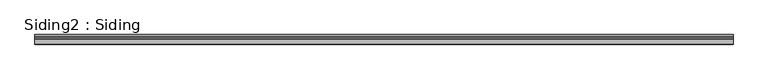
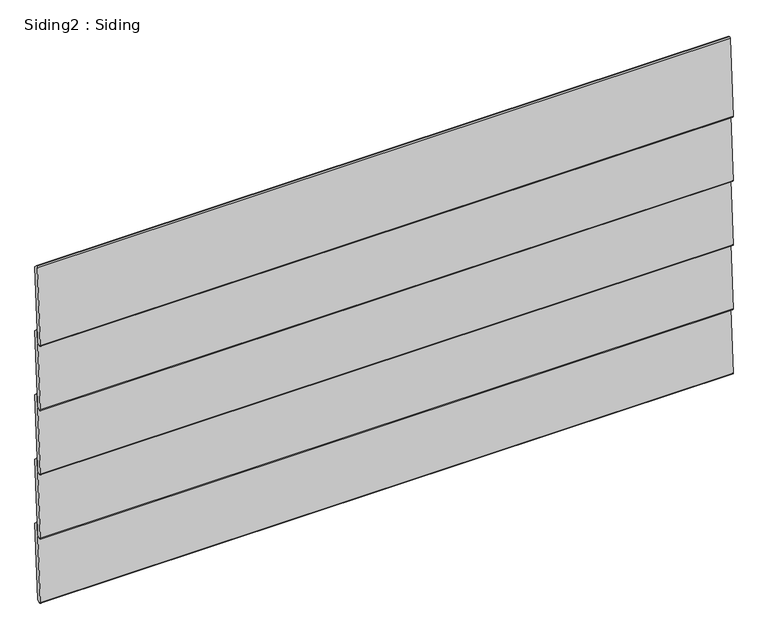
"""IFC4 building model written with IfcOpenShell, lengths in millimetres: proxy geometry, Siding2 : Siding."""

from ifc_helpers import new_model, si_unit, point, frame, frame_2d, origin, place, context, project, spatial, polyline, circle_curve, trimmed, segment, composite_curve, outline, extrude, source, transform, mapped, element, save


def siding2_siding_21e39ed7(model_context):
    return source(origin(), model_context, "Body", "SweptSolid", [
        extrude(outline(composite_curve([segment(trimmed(circle_curve(frame_2d((33663.6718498, 613.6895863)), 2.1075694), [point((33661.5781282, 613.9307891))], [point((33663.7040621, 615.7969095))], False, "CARTESIAN"), True, "CONTINUOUS"), segment(polyline([(33663.7040621, 615.7969095), (33665.7000892, 615.6670028), (33669.43233, 611.4151351), (33660.3182392, 471.3764062), (33656.0663715, 467.6441654), (33654.0703444, 467.7740721)]), True, "CONTINUOUS"), segment(trimmed(circle_curve(frame_2d((33654.3140531, 469.8699934)), 2.1100426), [point((33654.0703444, 467.7740721))], [point((33652.204224, 469.900006))], False, "CARTESIAN"), True, "CONTINUOUS"), segment(polyline([(33652.204224, 469.900006), (33661.5781282, 613.9307891)]), True, "CONTINUOUS")], self_intersect=False)), frame((2214.7820282, 0.0, 0.0), z_axis=(1.0, 0.0, 0.0), x_axis=(0.0, 1.0, 0.0)), (0.0, 0.0, 1.0), 1257.3),
        extrude(outline(composite_curve([segment(trimmed(circle_curve(frame_2d((33663.6718498, 490.4934983)), 2.1075694), [point((33661.5781282, 490.7347011))], [point((33663.7040621, 492.6008215))], False, "CARTESIAN"), True, "CONTINUOUS"), segment(polyline([(33663.7040621, 492.6008215), (33665.7000892, 492.4709148), (33669.43233, 488.2190471), (33660.3182392, 348.1803182), (33656.0663715, 344.4480774), (33654.0703444, 344.5779842)]), True, "CONTINUOUS"), segment(trimmed(circle_curve(frame_2d((33654.3140531, 346.6739054)), 2.1100426), [point((33654.0703444, 344.5779842))], [point((33652.204224, 346.703918))], False, "CARTESIAN"), True, "CONTINUOUS"), segment(polyline([(33652.204224, 346.703918), (33661.5781282, 490.7347011)]), True, "CONTINUOUS")], self_intersect=False)), frame((2214.7820282, 0.0, 0.0), z_axis=(1.0, 0.0, 0.0), x_axis=(0.0, 1.0, 0.0)), (0.0, 0.0, 1.0), 1257.3),
        extrude(outline(composite_curve([segment(trimmed(circle_curve(frame_2d((33663.6718498, 367.2974103)), 2.1075694), [point((33661.5781282, 367.5386131))], [point((33663.7040621, 369.4047335))], False, "CARTESIAN"), True, "CONTINUOUS"), segment(polyline([(33663.7040621, 369.4047335), (33665.7000892, 369.2748268), (33669.43233, 365.0229591), (33660.3182392, 224.9842302), (33656.0663715, 221.2519894), (33654.0703444, 221.3818962)]), True, "CONTINUOUS"), segment(trimmed(circle_curve(frame_2d((33654.3140531, 223.4778174)), 2.1100426), [point((33654.0703444, 221.3818962))], [point((33652.204224, 223.50783))], False, "CARTESIAN"), True, "CONTINUOUS"), segment(polyline([(33652.204224, 223.50783), (33661.5781282, 367.5386131)]), True, "CONTINUOUS")], self_intersect=False)), frame((2214.7820282, 0.0, 0.0), z_axis=(1.0, 0.0, 0.0), x_axis=(0.0, 1.0, 0.0)), (0.0, 0.0, 1.0), 1257.3),
        extrude(outline(composite_curve([segment(trimmed(circle_curve(frame_2d((33663.6718498, 244.1013223)), 2.1075694), [point((33661.5781282, 244.3425251))], [point((33663.7040621, 246.2086455))], False, "CARTESIAN"), True, "CONTINUOUS"), segment(polyline([(33663.7040621, 246.2086455), (33665.7000892, 246.0787388), (33669.43233, 241.8268711), (33660.3182392, 101.7881423), (33656.0663715, 98.0559014), (33654.0703444, 98.1858082)]), True, "CONTINUOUS"), segment(trimmed(circle_curve(frame_2d((33654.3140531, 100.2817294)), 2.1100426), [point((33654.0703444, 98.1858082))], [point((33652.204224, 100.311742))], False, "CARTESIAN"), True, "CONTINUOUS"), segment(polyline([(33652.204224, 100.311742), (33661.5781282, 244.3425251)]), True, "CONTINUOUS")], self_intersect=False)), frame((2214.7820282, 0.0, 0.0), z_axis=(1.0, 0.0, 0.0), x_axis=(0.0, 1.0, 0.0)), (0.0, 0.0, 1.0), 1257.3),
        extrude(outline(composite_curve([segment(trimmed(circle_curve(frame_2d((33663.6718498, 120.9052343)), 2.1075694), [point((33661.5781282, 121.1464371))], [point((33663.7040621, 123.0125575))], False, "CARTESIAN"), True, "CONTINUOUS"), segment(polyline([(33663.7040621, 123.0125575), (33665.7000892, 122.8826508), (33669.43233, 118.6307831), (33660.3182392, -21.4079457), (33656.0663715, -25.1401866), (33654.0703444, -25.0102798)]), True, "CONTINUOUS"), segment(trimmed(circle_curve(frame_2d((33654.3140531, -22.9143586)), 2.1100426), [point((33654.0703444, -25.0102798))], [point((33652.204224, -22.884346))], False, "CARTESIAN"), True, "CONTINUOUS"), segment(polyline([(33652.204224, -22.884346), (33661.5781282, 121.1464371)]), True, "CONTINUOUS")], self_intersect=False)), frame((2214.7820282, 0.0, 0.0), z_axis=(1.0, 0.0, 0.0), x_axis=(0.0, 1.0, 0.0)), (0.0, 0.0, 1.0), 1257.3),
    ])


if __name__ == "__main__":
    model = new_model("IFC4")
    model_context = context("Model", 3, world=origin())
    ifc_project = project(units=[si_unit("LENGTHUNIT", "METRE", prefix="MILLI")], contexts=[model_context])
    site = spatial("IfcSite", under=ifc_project)
    building = spatial("IfcBuilding", under=site)
    placement = place(None, origin())
    siding2_siding_shape = siding2_siding_21e39ed7(model_context)
    element("IfcBuildingElementProxy", 1, Name="Siding2 : Siding", ObjectType="Siding2 : Siding", at=placement, inside=building, context=model_context, shape_type="MappedRepresentation", body=[
        mapped(siding2_siding_shape, transform((0.0, 0.0, 0.0), x_axis=(1.0, 0.0, 0.0), y_axis=(0.0, 1.0, 0.0), z_axis=(0.0, 0.0, 1.0))),
    ])
    save(model, "model.ifc")
